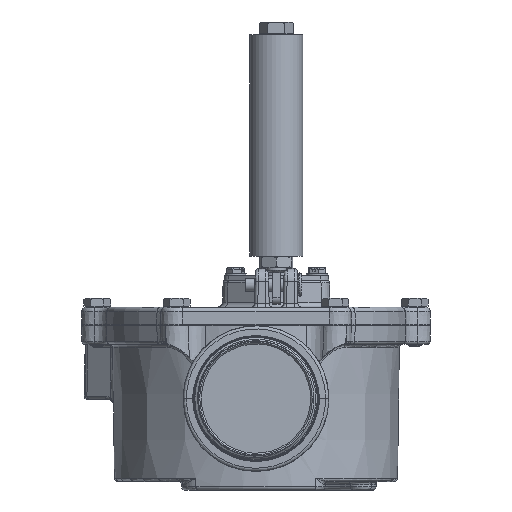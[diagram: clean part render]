
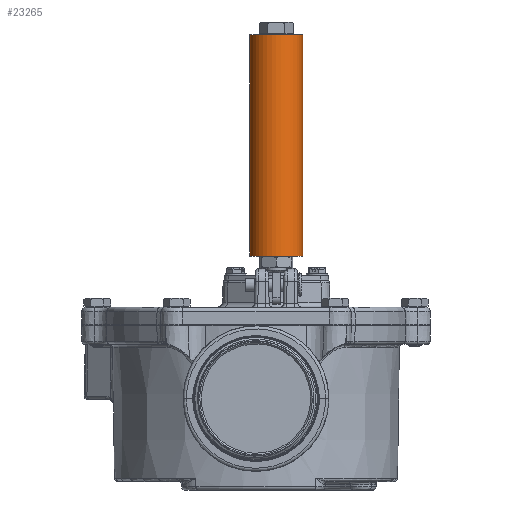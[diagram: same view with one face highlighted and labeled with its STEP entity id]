
A CAD part, front view. The second image highlights one B-rep face of the part: STEP entity #23265.
In plain terms, the highlighted cylindrical face has radius 12.7 mm (diameter 25.4 mm), a full revolution.
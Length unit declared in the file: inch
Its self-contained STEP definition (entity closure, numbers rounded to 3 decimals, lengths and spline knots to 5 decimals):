
#1847=LINE('',#51665,#3086);
#1853=LINE('',#51680,#3092);
#1854=LINE('',#51684,#3093);
#3086=VECTOR('',#30464,0.3937);
#3092=VECTOR('',#30478,0.3937);
#3093=VECTOR('',#30483,0.5);
#4265=CYLINDRICAL_SURFACE('',#25510,0.5);
#5289=FACE_OUTER_BOUND('',#6736,.T.);
#6736=EDGE_LOOP('',(#17881,#17882,#17883,#17884,#17885,#17886,#17887));
#8146=CIRCLE('',#25511,0.5);
#8147=CIRCLE('',#25512,0.5);
#8148=CIRCLE('',#25513,0.5);
#9805=VERTEX_POINT('',#51662);
#9806=VERTEX_POINT('',#51664);
#9810=VERTEX_POINT('',#51676);
#9811=VERTEX_POINT('',#51678);
#9812=VERTEX_POINT('',#51682);
#12620=EDGE_CURVE('',#9806,#9805,#1847,.T.);
#12628=EDGE_CURVE('',#9811,#9810,#1853,.T.);
#12629=EDGE_CURVE('',#9812,#9812,#8146,.T.);
#12630=EDGE_CURVE('',#9812,#9810,#1854,.T.);
#12631=EDGE_CURVE('',#9806,#9811,#8147,.T.);
#12632=EDGE_CURVE('',#9810,#9805,#8148,.T.);
#17881=ORIENTED_EDGE('',*,*,#12629,.T.);
#17882=ORIENTED_EDGE('',*,*,#12630,.T.);
#17883=ORIENTED_EDGE('',*,*,#12628,.F.);
#17884=ORIENTED_EDGE('',*,*,#12631,.F.);
#17885=ORIENTED_EDGE('',*,*,#12620,.T.);
#17886=ORIENTED_EDGE('',*,*,#12632,.F.);
#17887=ORIENTED_EDGE('',*,*,#12630,.F.);
#23265=ADVANCED_FACE('',(#5289),#4265,.T.);
#25510=AXIS2_PLACEMENT_3D('',#51681,#30479,#30480);
#25511=AXIS2_PLACEMENT_3D('',#51683,#30481,#30482);
#25512=AXIS2_PLACEMENT_3D('',#51685,#30484,#30485);
#25513=AXIS2_PLACEMENT_3D('',#51686,#30486,#30487);
#30464=DIRECTION('',(0.,0.,1.));
#30478=DIRECTION('',(0.,0.,1.));
#30479=DIRECTION('center_axis',(0.,0.,
1.));
#30480=DIRECTION('ref_axis',(1.,0.,0.));
#30481=DIRECTION('center_axis',(0.,0.,
-1.));
#30482=DIRECTION('ref_axis',(0.,1.,0.));
#30483=DIRECTION('',(0.,0.,-1.));
#30484=DIRECTION('center_axis',(0.,0.,
-1.));
#30485=DIRECTION('ref_axis',(1.,0.,0.));
#30486=DIRECTION('center_axis',(0.,0.,
-1.));
#30487=DIRECTION('ref_axis',(0.,1.,0.));
#51662=CARTESIAN_POINT('',(0.884,-6.068,4.443));
#51664=CARTESIAN_POINT('',(0.884,-6.068,4.256));
#51665=CARTESIAN_POINT('',(0.884,-6.068,4.256));
#51676=CARTESIAN_POINT('',(-0.116,-6.068,4.443));
#51678=CARTESIAN_POINT('',(-0.116,-6.068,4.256));
#51680=CARTESIAN_POINT('',(-0.116,-6.068,4.256));
#51681=CARTESIAN_POINT('Origin',(0.384,-6.068,4.256));
#51682=CARTESIAN_POINT('',(-0.116,-6.068,8.443));
#51683=CARTESIAN_POINT('Origin',(0.384,-6.068,8.443));
#51684=CARTESIAN_POINT('',(-0.116,-6.068,4.256));
#51685=CARTESIAN_POINT('Origin',(0.384,-6.068,4.256));
#51686=CARTESIAN_POINT('Origin',(0.384,-6.068,4.443));
